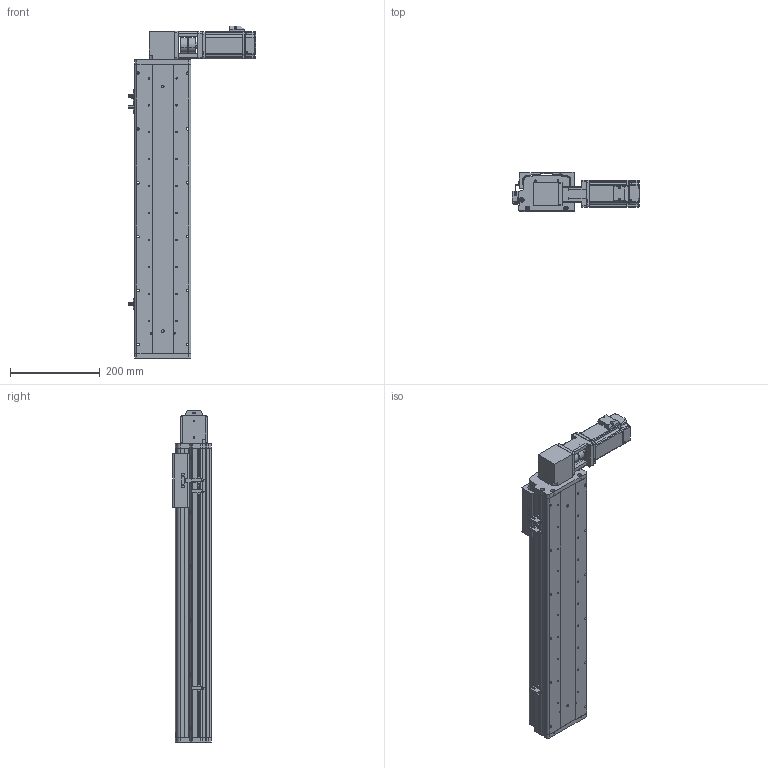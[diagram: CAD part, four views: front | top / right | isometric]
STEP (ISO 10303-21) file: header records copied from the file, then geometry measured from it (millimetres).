
FILE_DESCRIPTION (( 'STEP AP214' ), '1' );
FILE_NAME ('KSD125B-S450-MRT-CM.STEP', '2017-10-21T06:51:21', ( '微软用户' ), ( '微软中国' ), 'SwSTEP 2.0', 'SolidWorks 2014', '' );
FILE_SCHEMA (( 'AUTOMOTIVE_DESIGN' ));
Length unit declared in the file: millimetre
Products named in the file (16): KSD125模组450行程同步带-防尘盖; 125模组450行程同步带-底板; KSD125模组同步带-防撞垫2; CS-34X32-10X14; 100遵鎮湛假蚾啣1 ; 覜茼え68遵圉猾敕; U倰嫖萇假蚾璃; U倰嫖萇EEㄜSX672; KSD125模组同步带-防撞垫1; 100宽安装板同步带带电机座400W,86; 前端板-125宽模组同步带; 125模组同步带-尾端板1; KSD125模组同步带-滑动座1; KSD125B-S450-MRT-CM; MHMD042G1CA_2_03; 100宽马达安装板同步带左
Assembly tree (19 placements, depth 2):
  KSD125B-S450-MRT-CM
    KSD125模组同步带-滑动座1
    125模组同步带-尾端板1
    前端板-125宽模组同步带
    100宽安装板同步带带电机座400W,86
    KSD125模组同步带-防撞垫1
    U倰嫖萇EEㄜSX672  x3
    U倰嫖萇假蚾璃  x3
    覜茼え68遵圉猾敕
    100遵鎮湛假蚾啣1 
    CS-34X32-10X14
    KSD125模组同步带-防撞垫2
    125模组450行程同步带-底板
    KSD125模组450行程同步带-防尘盖
    100宽马达安装板同步带左
    MHMD042G1CA_2_03
Bounding box: 282.7 x 86 x 739 mm (x, y, z)
Volume: 2440911.4 mm3; surface area: 825403.7 mm2
Topology: 18 solids, 21 shells, 1638 faces, 4690 edges, 3092 vertices
Faces by surface type: cylinder 837, plane 698, cone 81, bspline 22
Entity records: 57234 total; most frequent: CARTESIAN_POINT 11624, DIRECTION 8365, ORIENTED_EDGE 7900, EDGE_CURVE 4028, AXIS2_PLACEMENT_3D 3093, VERTEX_POINT 2684, VECTOR 2179, LINE 2179
